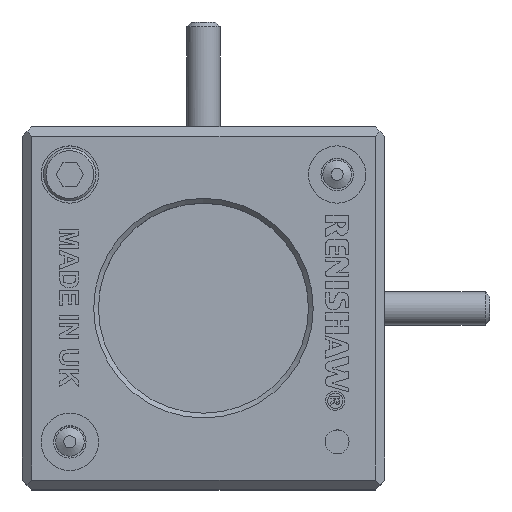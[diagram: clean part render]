
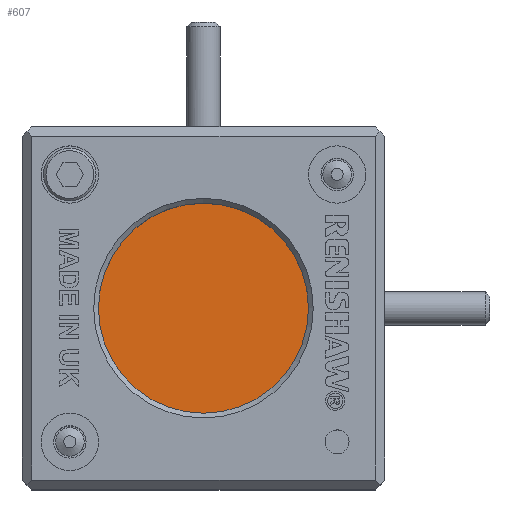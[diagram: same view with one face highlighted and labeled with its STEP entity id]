
A CAD part, top view. The second image highlights one B-rep face of the part: STEP entity #607.
In plain terms, the highlighted planar face has unit normal (0, 0, 1).
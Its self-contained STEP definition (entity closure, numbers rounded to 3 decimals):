
#607=ADVANCED_FACE('',(#1139),#922,.T.);
#922=PLANE('',#6450);
#1139=FACE_OUTER_BOUND('',#1356,.T.);
#1356=EDGE_LOOP('',(#3143));
#3143=ORIENTED_EDGE('',*,*,#5527,.F.);
#4728=VERTEX_POINT('',#8983);
#5527=EDGE_CURVE('',#4728,#4728,#6246,.T.);
#6246=CIRCLE('',#6444,12.675);
#6444=AXIS2_PLACEMENT_3D('',#8982,#7065,#7066);
#6450=AXIS2_PLACEMENT_3D('',#8989,#7077,#7078);
#7065=DIRECTION('',(0.,0.,-1.));
#7066=DIRECTION('',(0.,-1.,0.));
#7077=DIRECTION('',(0.,0.,1.));
#7078=DIRECTION('',(0.,-1.,0.));
#8982=CARTESIAN_POINT('',(19.,19.,11.65));
#8983=CARTESIAN_POINT('',(19.,6.325,11.65));
#8989=CARTESIAN_POINT('',(19.,19.,11.65));
